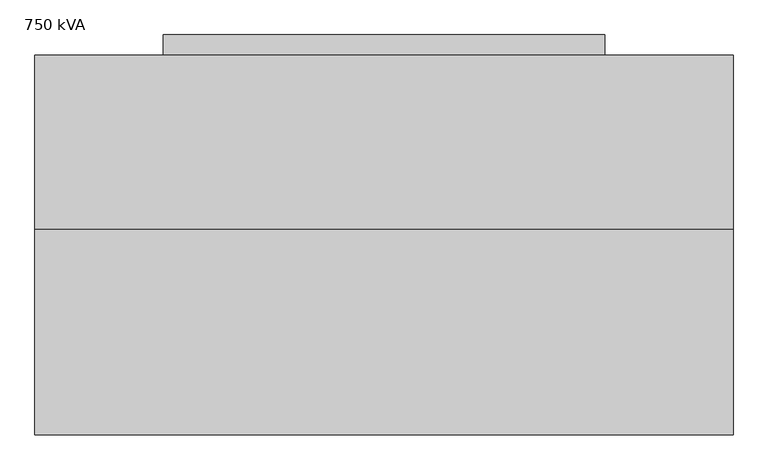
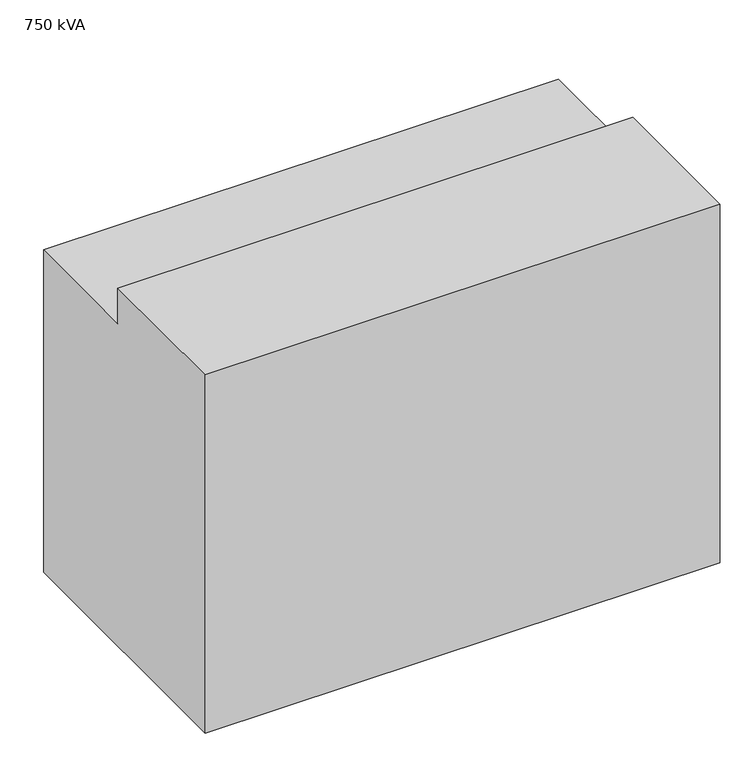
"""IFC4 building model written with IfcOpenShell, lengths in millimetres: proxy geometry, OMAHA - Wet Type Transformer - 12000-480Y277 : 750 kVA."""

from ifc_helpers import new_model, si_unit, frame, origin, place, context, project, spatial, polyline, outline, extrude, source, transform, mapped, element, save


def proxy_750_kva_2c75fa4d(model_context):
    return source(origin(), model_context, "Body", "SweptSolid", [
        extrude(outline(polyline([(-482.6, 1143.0), (-50.8, 1143.0), (-50.8, 0.0), (-990.6, 0.0), (-990.6, 1270.0), (-482.6, 1270.0), (-482.6, 1143.0)])), frame((-863.6, 0.0, 0.0), z_axis=(1.0, 0.0, 0.0), x_axis=(0.0, 1.0, 0.0)), (0.0, 0.0, 1.0), 1727.2),
        extrude(outline(polyline([(546.1, 0.0), (546.1, -50.8), (-546.1, -50.8), (-546.1, 0.0), (546.1, 0.0)])), frame((0.0, 0.0, 254.0), z_axis=(0.0, 0.0, 1.0), x_axis=(1.0, 0.0, 0.0)), (0.0, 0.0, 1.0), 762.0),
    ])


if __name__ == "__main__":
    model = new_model("IFC4")
    model_context = context("Model", 3, world=origin())
    ifc_project = project(units=[si_unit("LENGTHUNIT", "METRE", prefix="MILLI")], contexts=[model_context])
    site = spatial("IfcSite", under=ifc_project)
    building = spatial("IfcBuilding", under=site)
    placement = place(None, origin())
    proxy_750_kva_shape = proxy_750_kva_2c75fa4d(model_context)
    element("IfcBuildingElementProxy", 1, Name="OMAHA - Wet Type Transformer - 12000-480Y277 : 750 kVA", ObjectType="OMAHA - Wet Type Transformer - 12000-480Y277 : 750 kVA", at=placement, inside=building, context=model_context, shape_type="MappedRepresentation", body=[
        mapped(proxy_750_kva_shape, transform((0.0, 0.0, 0.0), x_axis=(1.0, 0.0, 0.0), y_axis=(0.0, 1.0, 0.0), z_axis=(0.0, 0.0, 1.0))),
    ])
    save(model, "model.ifc")
